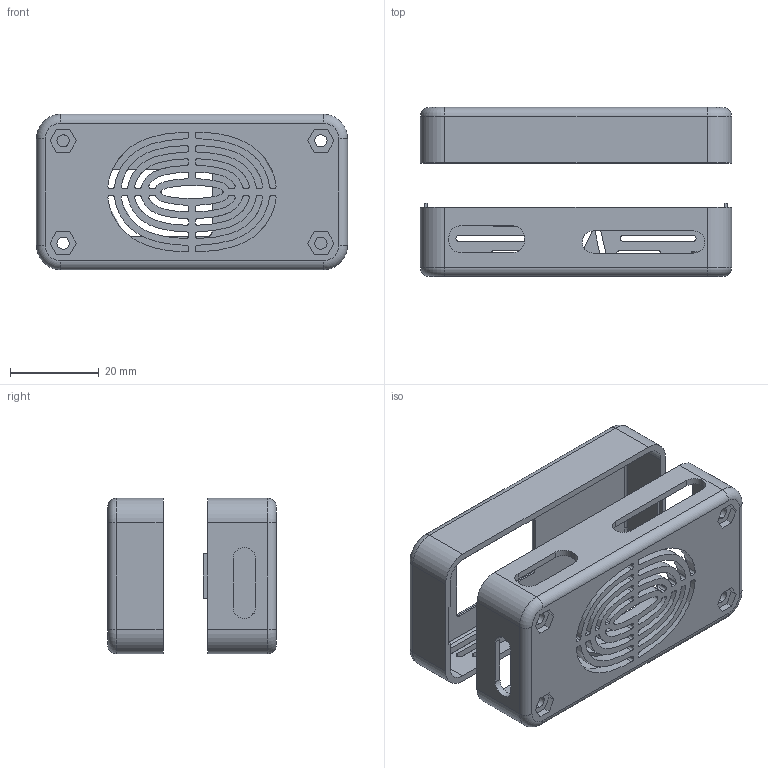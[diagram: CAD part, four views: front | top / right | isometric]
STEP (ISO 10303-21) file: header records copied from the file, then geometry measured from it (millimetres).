
FILE_DESCRIPTION((''),'2;1');
FILE_NAME('SAMA_OBUDOWA_ASM','2020-01-12T21:34:38',('Agnieszka'),(''),'CREO PARAMETRIC BY PTC INC, 2019010','CREO PARAMETRIC BY PTC INC, 2019010','');
FILE_SCHEMA(('CONFIG_CONTROL_DESIGN'));
Length unit declared in the file: millimetre
Products named in the file (3): OBUDOWA_DOL; OBUDOWA_GORA; SAMA_OBUDOWA_ASM
Assembly tree (2 placements, depth 2):
  SAMA_OBUDOWA_ASM
    OBUDOWA_DOL
    OBUDOWA_GORA
Bounding box: 70 x 38 x 35 mm (x, y, z)
Volume: 13739.6 mm3; surface area: 19551.3 mm2
Topology: 2 solids, 2 shells, 387 faces, 1082 edges, 710 vertices
Faces by surface type: cylinder 164, plane 159, extrusion 46, torus 18
Entity records: 14516 total; most frequent: CARTESIAN_POINT 4160, ORIENTED_EDGE 2164, DIRECTION 2086, EDGE_CURVE 1082, VERTEX_POINT 710, AXIS2_PLACEMENT_3D 702, VECTOR 682, LINE 636
